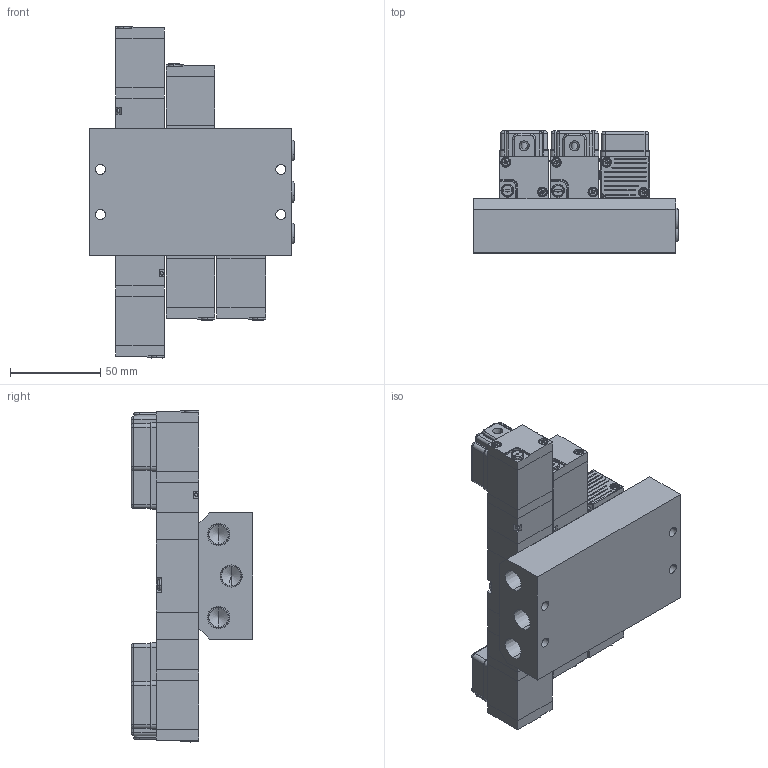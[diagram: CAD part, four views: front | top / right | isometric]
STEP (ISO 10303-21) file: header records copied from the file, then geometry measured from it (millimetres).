
FILE_DESCRIPTION (( 'STEP AP203' ), '1' );
FILE_NAME ('MFB#-PC06-02-G.STEP', '2016-02-04T05:34:31', ( 'Sam Lin' ), ( '' ), 'SwSTEP 2.0', 'SolidWorks 2013', '' );
FILE_SCHEMA (( 'CONFIG_CONTROL_DESIGN' ));
Length unit declared in the file: metre
Products named in the file (16): PC6-M3; 承頭; PCS2406-3-小圓珠; MFB#-PC06-02-G; PCS2406-7; PCS2406-3; PC6-M4; PC06-MARK; PCS2406-8; PCS2406-4; PCS2406-10; PCS2406-9; PCS2406-5; PCS2406-11-T=6; PCS2406-6; MFB#-PC06-02
Assembly tree (69 placements, depth 2):
  MFB#-PC06-02-G
    PCS2406-4  x3
    PCS2406-5  x5
    PCS2406-6
    PC6-M3  x12
    PCS2406-3-小圓珠  x6
    PCS2406-7  x5
    PCS2406-3  x5
    PC6-M4  x11
    PCS2406-8  x5
    PCS2406-9  x5
    PC06-MARK  x3
    PCS2406-10  x2
    PCS2406-11-T=6  x2
    MFB#-PC06-02
    承頭  x3
Bounding box: 113.51 x 67.5 x 184 mm (x, y, z)
Volume: 543359.3 mm3; surface area: 130433.1 mm2
Topology: 87 solids, 87 shells, 1902 faces, 4647 edges, 2871 vertices
Faces by surface type: plane 1003, cylinder 373, bspline 267, cone 239, torus 20
Entity records: 17420 total; most frequent: CARTESIAN_POINT 4024, DIRECTION 2143, ORIENTED_EDGE 2086, EDGE_CURVE 1043, AXIS2_PLACEMENT_3D 772, VERTEX_POINT 676, VECTOR 599, LINE 599
